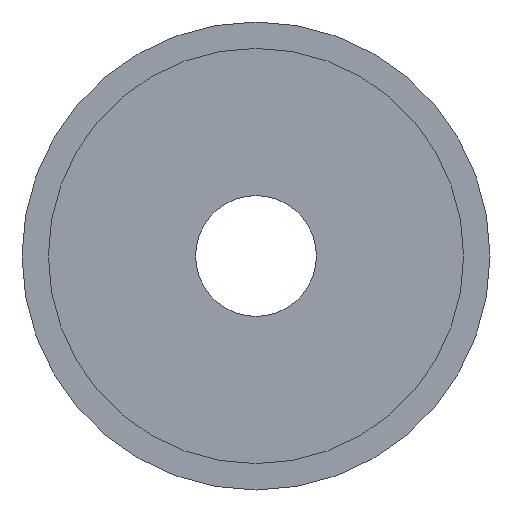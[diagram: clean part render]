
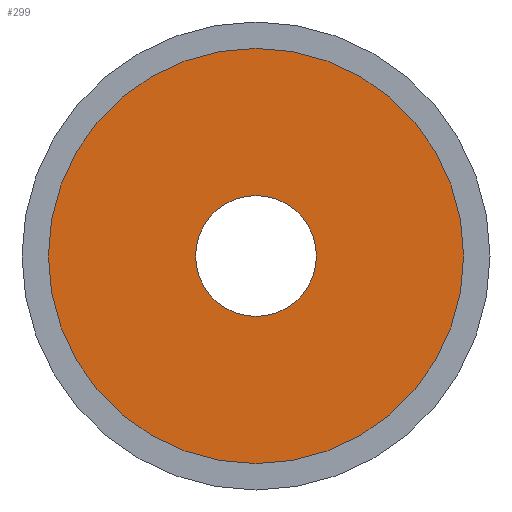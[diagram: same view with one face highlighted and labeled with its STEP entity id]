
A CAD part, front view. The second image highlights one B-rep face of the part: STEP entity #299.
In plain terms, the highlighted planar face has unit normal (0, -1, 0).
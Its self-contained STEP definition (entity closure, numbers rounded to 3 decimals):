
#91 = EDGE_LOOP ( 'NONE', ( #2034, #510 ) ) ;
#119 = DIRECTION ( 'NONE',  ( 0., 0., 1. ) ) ;
#128 = CARTESIAN_POINT ( 'NONE',  ( 0., -15., 8. ) ) ;
#136 = DIRECTION ( 'NONE',  ( 0., -1., 0. ) ) ;
#193 = CIRCLE ( 'NONE', #207, 8. ) ;
#207 = AXIS2_PLACEMENT_3D ( 'NONE', #612, #1702, #948 ) ;
#221 = CIRCLE ( 'NONE', #931, 27.5 ) ;
#269 = CIRCLE ( 'NONE', #1799, 27.5 ) ;
#285 = EDGE_CURVE ( 'NONE', #2063, #1993, #193, .T. ) ;
#295 = EDGE_CURVE ( 'NONE', #1833, #926, #269, .T. ) ;
#299 = ADVANCED_FACE ( 'NONE', ( #1093, #1898 ), #1095, .F. ) ;
#493 = AXIS2_PLACEMENT_3D ( 'NONE', #128, #1554, #119 ) ;
#510 = ORIENTED_EDGE ( 'NONE', *, *, #2036, .T. ) ;
#568 = CIRCLE ( 'NONE', #1747, 8. ) ;
#612 = CARTESIAN_POINT ( 'NONE',  ( 0., -15., 0. ) ) ;
#616 = CARTESIAN_POINT ( 'NONE',  ( 0., -15., 0. ) ) ;
#762 = ORIENTED_EDGE ( 'NONE', *, *, #900, .F. ) ;
#900 = EDGE_CURVE ( 'NONE', #1993, #2063, #568, .T. ) ;
#926 = VERTEX_POINT ( 'NONE', #2044 ) ;
#931 = AXIS2_PLACEMENT_3D ( 'NONE', #1768, #984, #997 ) ;
#938 = DIRECTION ( 'NONE',  ( 0., -1., 0. ) ) ;
#948 = DIRECTION ( 'NONE',  ( 0., 0., -1. ) ) ;
#984 = DIRECTION ( 'NONE',  ( 0., -1., 0. ) ) ;
#997 = DIRECTION ( 'NONE',  ( 0., 0., -1. ) ) ;
#1093 = FACE_BOUND ( 'NONE', #1694, .T. ) ;
#1095 = PLANE ( 'NONE',  #493 ) ;
#1101 = CARTESIAN_POINT ( 'NONE',  ( 0., -15., -8. ) ) ;
#1148 = CARTESIAN_POINT ( 'NONE',  ( 0., -15., 8. ) ) ;
#1554 = DIRECTION ( 'NONE',  ( 0., 1., 0. ) ) ;
#1655 = CARTESIAN_POINT ( 'NONE',  ( 0., -15., -27.5 ) ) ;
#1694 = EDGE_LOOP ( 'NONE', ( #762, #1784 ) ) ;
#1702 = DIRECTION ( 'NONE',  ( 0., -1., 0. ) ) ;
#1716 = DIRECTION ( 'NONE',  ( 0., 0., -1. ) ) ;
#1747 = AXIS2_PLACEMENT_3D ( 'NONE', #616, #938, #1716 ) ;
#1768 = CARTESIAN_POINT ( 'NONE',  ( 0., -15., 0. ) ) ;
#1784 = ORIENTED_EDGE ( 'NONE', *, *, #285, .F. ) ;
#1799 = AXIS2_PLACEMENT_3D ( 'NONE', #1887, #136, #2049 ) ;
#1833 = VERTEX_POINT ( 'NONE', #1655 ) ;
#1887 = CARTESIAN_POINT ( 'NONE',  ( 0., -15., 0. ) ) ;
#1898 = FACE_OUTER_BOUND ( 'NONE', #91, .T. ) ;
#1993 = VERTEX_POINT ( 'NONE', #1101 ) ;
#2034 = ORIENTED_EDGE ( 'NONE', *, *, #295, .T. ) ;
#2036 = EDGE_CURVE ( 'NONE', #926, #1833, #221, .T. ) ;
#2044 = CARTESIAN_POINT ( 'NONE',  ( 0., -15., 27.5 ) ) ;
#2049 = DIRECTION ( 'NONE',  ( 0., 0., -1. ) ) ;
#2063 = VERTEX_POINT ( 'NONE', #1148 ) ;
